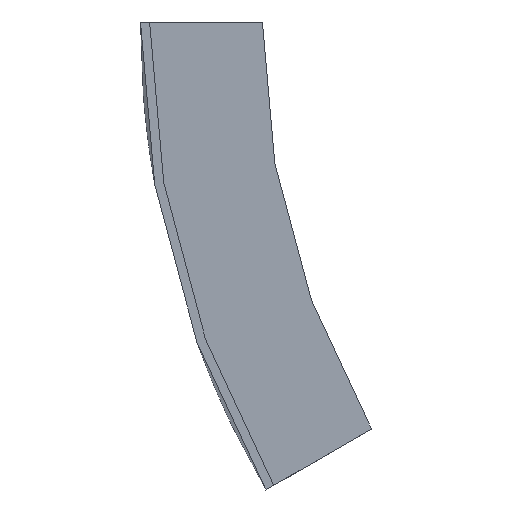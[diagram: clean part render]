
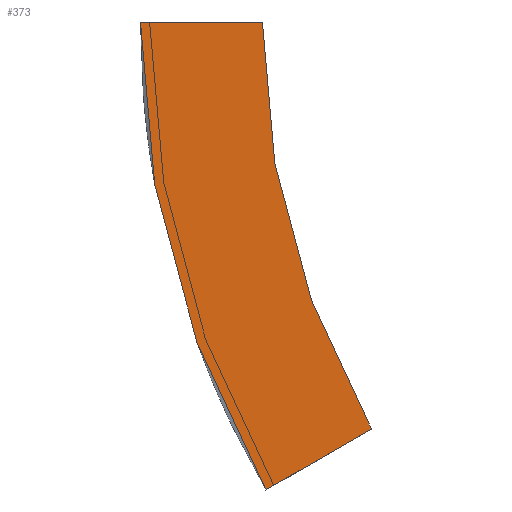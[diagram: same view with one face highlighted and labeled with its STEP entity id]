
A CAD part, left-side view. The second image highlights one B-rep face of the part: STEP entity #373.
In plain terms, the highlighted planar face has unit normal (-1, 0, 0).
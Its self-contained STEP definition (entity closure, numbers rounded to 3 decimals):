
#3 = CARTESIAN_POINT ( 'NONE',  ( -203.5, -20., 0. ) ) ;
#6 = CARTESIAN_POINT ( 'NONE',  ( -203.5, -37.886, -66.75 ) ) ;
#25 = CIRCLE ( 'NONE', #494, 153.5 ) ;
#30 = FACE_OUTER_BOUND ( 'NONE', #358, .T. ) ;
#49 = ORIENTED_EDGE ( 'NONE', *, *, #506, .F. ) ;
#50 = CARTESIAN_POINT ( 'NONE',  ( -203.5, -20., 0. ) ) ;
#53 = LINE ( 'NONE', #6, #283 ) ;
#69 = CARTESIAN_POINT ( 'NONE',  ( -203.5, -37.886, -66.75 ) ) ;
#73 = AXIS2_PLACEMENT_3D ( 'NONE', #93, #368, #421 ) ;
#75 = VERTEX_POINT ( 'NONE', #513 ) ;
#93 = CARTESIAN_POINT ( 'NONE',  ( -203.5, -153.5, 0. ) ) ;
#118 = ORIENTED_EDGE ( 'NONE', *, *, #269, .F. ) ;
#170 = ORIENTED_EDGE ( 'NONE', *, *, #215, .F. ) ;
#211 = DIRECTION ( 'NONE',  ( 0., 0., 1. ) ) ;
#215 = EDGE_CURVE ( 'NONE', #400, #602, #295, .T. ) ;
#221 = ORIENTED_EDGE ( 'NONE', *, *, #402, .F. ) ;
#223 = DIRECTION ( 'NONE',  ( -1., 0., 0. ) ) ;
#232 = LINE ( 'NONE', #3, #423 ) ;
#269 = EDGE_CURVE ( 'NONE', #75, #364, #25, .T. ) ;
#283 = VECTOR ( 'NONE', #376, 1000. ) ;
#295 = CIRCLE ( 'NONE', #335, 133.5 ) ;
#335 = AXIS2_PLACEMENT_3D ( 'NONE', #365, #223, #488 ) ;
#353 = CARTESIAN_POINT ( 'NONE',  ( -203.5, 0., 0. ) ) ;
#358 = EDGE_LOOP ( 'NONE', ( #118, #49, #170, #221 ) ) ;
#364 = VERTEX_POINT ( 'NONE', #353 ) ;
#365 = CARTESIAN_POINT ( 'NONE',  ( -203.5, -153.5, 0. ) ) ;
#368 = DIRECTION ( 'NONE',  ( -1., 0., 0. ) ) ;
#373 = ADVANCED_FACE ( 'NONE', ( #30 ), #545, .T. ) ;
#376 = DIRECTION ( 'NONE',  ( 0., 0.866, -0.5 ) ) ;
#397 = DIRECTION ( 'NONE',  ( 1., 0., 0. ) ) ;
#400 = VERTEX_POINT ( 'NONE', #50 ) ;
#402 = EDGE_CURVE ( 'NONE', #364, #400, #232, .T. ) ;
#421 = DIRECTION ( 'NONE',  ( 0., 0., 1. ) ) ;
#423 = VECTOR ( 'NONE', #516, 1000. ) ;
#488 = DIRECTION ( 'NONE',  ( 0., 0., -1. ) ) ;
#494 = AXIS2_PLACEMENT_3D ( 'NONE', #594, #397, #211 ) ;
#506 = EDGE_CURVE ( 'NONE', #602, #75, #53, .T. ) ;
#513 = CARTESIAN_POINT ( 'NONE',  ( -203.5, -20.565, -76.75 ) ) ;
#516 = DIRECTION ( 'NONE',  ( 0., -1., 0. ) ) ;
#545 = PLANE ( 'NONE',  #73 ) ;
#594 = CARTESIAN_POINT ( 'NONE',  ( -203.5, -153.5, 0. ) ) ;
#602 = VERTEX_POINT ( 'NONE', #69 ) ;
